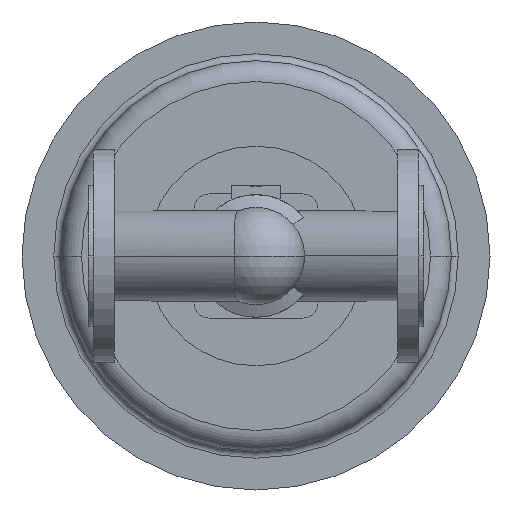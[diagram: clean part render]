
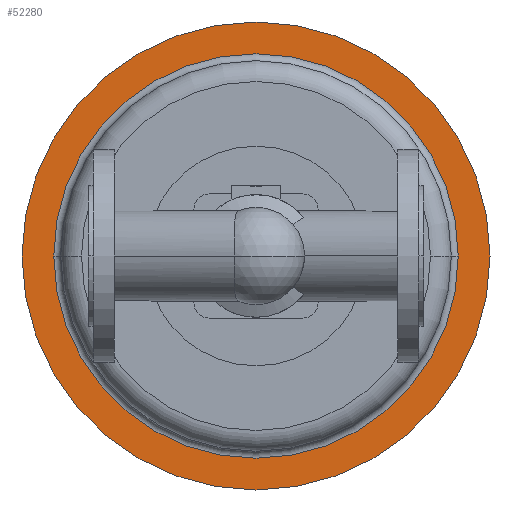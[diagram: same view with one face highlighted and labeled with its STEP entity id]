
A CAD part, front view. The second image highlights one B-rep face of the part: STEP entity #52280.
In plain terms, the highlighted planar face has unit normal (0, -1, 0).
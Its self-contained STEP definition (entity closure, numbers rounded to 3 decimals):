
#51740=CARTESIAN_POINT('',(-30.,777.5,0.));
#51750=VERTEX_POINT('',#51740);
#51780=CARTESIAN_POINT('',(145.,777.5,0.));
#51790=DIRECTION('',(0.,1.,0.));
#51800=DIRECTION('',(1.,0.,0.));
#51810=AXIS2_PLACEMENT_3D('',#51780,#51790,#51800);
#51820=CIRCLE('',#51810,175.);
#51830=CARTESIAN_POINT('',(320.,777.5,0.));
#51840=VERTEX_POINT('',#51830);
#51850=EDGE_CURVE('',#51750,#51840,#51820,.T.);
#52030=CARTESIAN_POINT('',(333.75,777.5,0.));
#52040=DIRECTION('',(0.,-1.,0.));
#52050=DIRECTION('',(-1.,0.,0.));
#52060=AXIS2_PLACEMENT_3D('',#52030,#52040,#52050);
#52070=PLANE('',#52060);
#52080=CARTESIAN_POINT('',(145.,777.5,0.));
#52090=DIRECTION('',(0.,1.,0.));
#52100=DIRECTION('',(1.,0.,0.));
#52110=AXIS2_PLACEMENT_3D('',#52080,#52090,#52100);
#52120=CIRCLE('',#52110,202.5);
#52130=CARTESIAN_POINT('',(-57.5,777.5,0.));
#52140=VERTEX_POINT('',#52130);
#52150=CARTESIAN_POINT('',(347.5,777.5,0.));
#52160=VERTEX_POINT('',#52150);
#52170=EDGE_CURVE('',#52140,#52160,#52120,.T.);
#52180=ORIENTED_EDGE('',*,*,#52170,.F.);
#52190=EDGE_CURVE('',#52160,#52140,#52120,.T.);
#52200=ORIENTED_EDGE('',*,*,#52190,.F.);
#52210=EDGE_LOOP('',(#52200,#52180));
#52220=FACE_OUTER_BOUND('',#52210,.T.);
#52230=EDGE_CURVE('',#51840,#51750,#51820,.T.);
#52240=ORIENTED_EDGE('',*,*,#52230,.T.);
#52250=ORIENTED_EDGE('',*,*,#51850,.T.);
#52260=EDGE_LOOP('',(#52250,#52240));
#52270=FACE_BOUND('',#52260,.T.);
#52280=ADVANCED_FACE('',(#52220,#52270),#52070,.T.);
